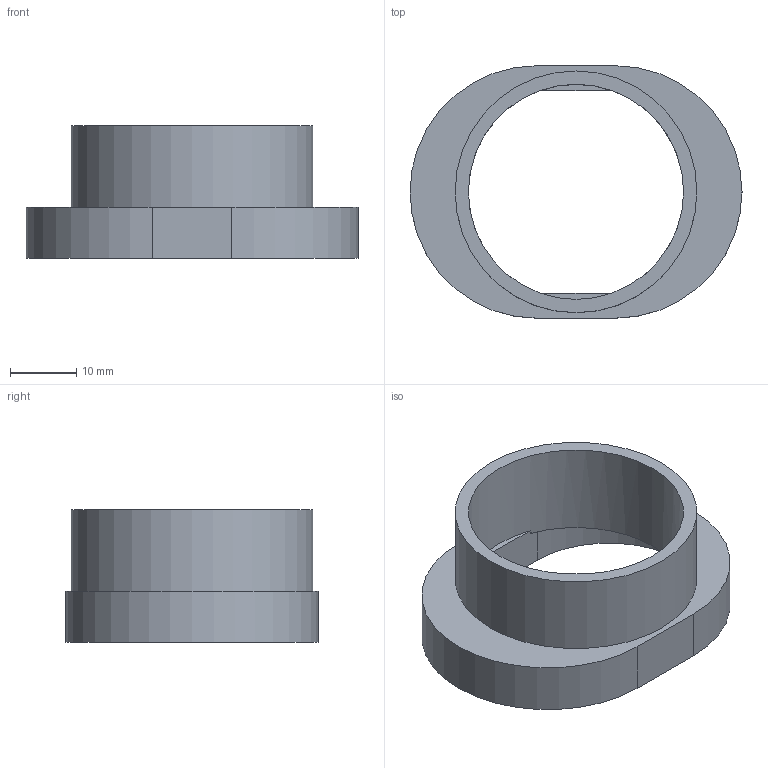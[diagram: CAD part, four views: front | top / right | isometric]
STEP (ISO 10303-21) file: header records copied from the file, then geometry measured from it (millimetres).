
FILE_DESCRIPTION(('Open CASCADE Model'),'2;1');
FILE_NAME('Open CASCADE Shape Model','2026-08-16T15:13:29',('Author'),( 'Open CASCADE'),'Open CASCADE STEP processor 7.9','Open CASCADE 7.9' ,'Unknown');
FILE_SCHEMA(('AUTOMOTIVE_DESIGN { 1 0 10303 214 1 1 1 1 }'));
Length unit declared in the file: millimetre
Products named in the file (1): Open CASCADE STEP translator 7.9 12
Bounding box: 50 x 38 x 20 mm (x, y, z)
Volume: 6662 mm3; surface area: 6230.8 mm2
Topology: 1 solids, 1 shells, 17 faces, 42 edges, 28 vertices
Faces by surface type: plane 11, cylinder 6
Full cylindrical faces by diameter (mm): 32.4 x1, 36.4 x1
Entity records: 1074 total; most frequent: CARTESIAN_POINT 206, DIRECTION 164, ORIENTED_EDGE 84, PCURVE 84, DEFINITIONAL_REPRESENTATION 84, LINE 84, VECTOR 84, EDGE_CURVE 42
